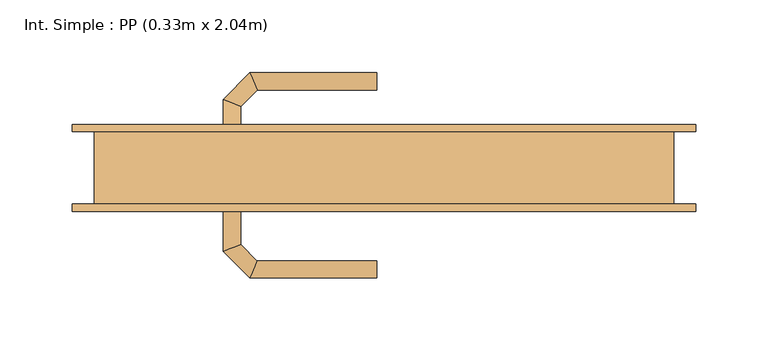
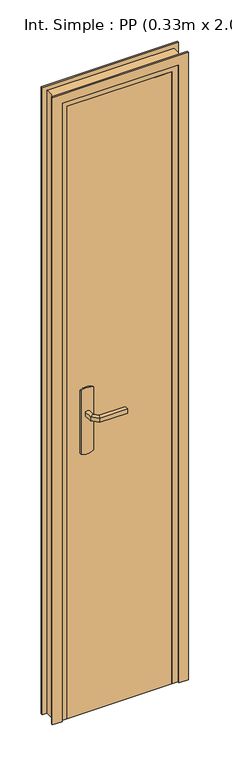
"""IFC4 building model written with IfcOpenShell, lengths in millimetres: door geometry, Int. Simple : PP (0.33m x 2.04m)."""

from ifc_helpers import new_model, si_unit, point, frame, frame_2d, origin, origin_with_axes, place, context, project, spatial, polyline, circle_curve, ellipse_curve, trimmed, segment, composite_curve, outline, extrude, faceted_brep, source, transform, mapped, element, save
from ifc_brep_helpers import plane_surface, cylinder_surface, advanced_brep


def int_simple_pp_0_33m_x_2_04m_4fbbb0b7(model_context):
    return source(origin(), model_context, "Body", "SolidModel", [
        extrude(outline(composite_curve([segment(trimmed(circle_curve(frame_2d((904.6410162, -140.0)), 40.0), [point((870.0, -160.0))], [point((870.0, -120.0))], False, "CARTESIAN"), True, "CONTINUOUS"), segment(polyline([(870.0, -120.0), (1080.0, -120.0)]), True, "CONTINUOUS"), segment(trimmed(circle_curve(frame_2d((1045.3589838, -140.0)), 40.0), [point((1080.0, -120.0))], [point((1080.0, -160.0))], False, "CARTESIAN"), True, "CONTINUOUS"), segment(polyline([(1080.0, -160.0), (870.0, -160.0)]), True, "CONTINUOUS")], self_intersect=False)), frame((0.0, -30.0, 0.0), z_axis=(0.0, 1.0, 0.0), x_axis=(0.0, 0.0, 1.0)), (0.0, 0.0, 1.0), 5.0),
        extrude(outline(composite_curve([segment(trimmed(circle_curve(frame_2d((1045.3589838, -140.0)), 40.0), [point((1080.0, -120.0))], [point((1080.0, -160.0))], False, "CARTESIAN"), True, "CONTINUOUS"), segment(polyline([(1080.0, -160.0), (870.0, -160.0)]), True, "CONTINUOUS"), segment(trimmed(circle_curve(frame_2d((904.6410162, -140.0)), 40.0), [point((870.0, -160.0))], [point((870.0, -120.0))], False, "CARTESIAN"), True, "CONTINUOUS"), segment(polyline([(870.0, -120.0), (1080.0, -120.0)]), True, "CONTINUOUS")], self_intersect=False)), frame((0.0, 15.0, 0.0), z_axis=(0.0, 1.0, 0.0), x_axis=(0.0, 0.0, 1.0)), (0.0, 0.0, 1.0), 5.0),
        advanced_brep(
        [(-146.0, -30.0, 1007.0), (-134.0, -30.0, 1007.0), (-134.0, -30.0, 993.0), (-146.0, -30.0, 993.0), (-146.0, -57.6509507, 1007.0), (-134.0, -52.680388, 1007.0), (-134.0, -52.680388, 993.0), (-146.0, -57.6509507, 993.0), (-127.62279, -76.0281607, 1007.0), (-122.6522273, -64.0281607, 1007.0), (-122.6522273, -64.0281607, 993.0), (-127.62279, -76.0281607, 993.0), (-39.9813594, -76.0281607, 1007.0), (-39.9813594, -76.0281607, 993.0), (-39.9813594, -64.0281607, 993.0), (-39.9813594, -64.0281607, 1007.0)],
        [
            (0, 1, circle_curve(frame((-140.0, -30.0, 986.9542278), z_axis=(0.0, 1.0, 0.0), x_axis=(1.0, 0.0, 0.0)), 20.9244589)),
            (1, 2),
            (2, 3, circle_curve(frame((-140.0, -30.0, 1013.0457722), z_axis=(0.0, 1.0, 0.0), x_axis=(1.0, 0.0, 0.0)), 20.9244589)),
            (3, 0),
            (0, 4),
            (4, 5, ellipse_curve(frame((-140.0, -55.1656693, 986.9542278), z_axis=(-0.3826834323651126, 0.9238795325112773, 0.0), x_axis=(0.9238795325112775, 0.38268343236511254, 0.0)), 22.6484711, 20.9244589)),
            (5, 1),
            (5, 6),
            (6, 2),
            (6, 7, ellipse_curve(frame((-140.0, -55.1656693, 1013.0457722), z_axis=(-0.3826834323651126, 0.9238795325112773, 0.0), x_axis=(0.9238795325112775, 0.38268343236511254, 0.0)), 22.6484711, 20.9244589)),
            (7, 3),
            (7, 4),
            (4, 8),
            (8, 9, ellipse_curve(frame((-125.1375086, -70.0281607, 986.9542278), z_axis=(-0.9238795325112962, 0.38268343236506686, 0.0), x_axis=(0.3826834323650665, 0.9238795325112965, 0.0)), 22.6484711, 20.9244589)),
            (9, 5),
            (9, 10),
            (10, 6),
            (10, 11, ellipse_curve(frame((-125.1375086, -70.0281607, 1013.0457722), z_axis=(-0.9238795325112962, 0.38268343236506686, 0.0), x_axis=(0.3826834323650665, 0.9238795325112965, 0.0)), 22.6484711, 20.9244589)),
            (11, 7),
            (11, 8),
            (12, 13),
            (13, 14, circle_curve(frame((-39.9813594, -70.0281607, 1013.0457722), z_axis=(1.0, 0.0, 0.0), x_axis=(0.0, 1.0, 0.0)), 20.9244589)),
            (14, 15),
            (15, 12, circle_curve(frame((-39.9813594, -70.0281607, 986.9542278), z_axis=(1.0, 0.0, 0.0), x_axis=(0.0, 1.0, 0.0)), 20.9244589)),
            (8, 12),
            (15, 9),
            (14, 10),
            (13, 11),
        ],
        [
            plane_surface(frame((-149.2195445, -30.0, 1000.0), z_axis=(0.0, 1.0, 0.0), x_axis=(0.0, 0.0, -1.0))),
            cylinder_surface(frame((-140.0, -30.0, 986.9542278), z_axis=(0.0, 1.0, 0.0), x_axis=(1.0, 0.0, 0.0)), 20.9244589),
            plane_surface(frame((-134.0, -30.0, 1007.0), z_axis=(1.0, 0.0, 0.0), x_axis=(0.0, -1.0, 0.0))),
            cylinder_surface(frame((-140.0, -30.0, 1013.0457722), z_axis=(0.0, 1.0, 0.0), x_axis=(1.0, 0.0, 0.0)), 20.9244589),
            plane_surface(frame((-146.0, -30.0, 993.0), z_axis=(-1.0, 0.0, 0.0), x_axis=(0.0, -1.0, 0.0))),
            cylinder_surface(frame((-140.0, -55.1656693, 986.9542278), z_axis=(-0.7071067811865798, 0.7071067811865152, 0.0), x_axis=(0.7071067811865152, 0.7071067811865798, 0.0)), 20.9244589),
            plane_surface(frame((-134.0, -52.680388, 1007.0), z_axis=(0.7071067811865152, 0.7071067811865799, 0.0), x_axis=(0.7071067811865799, -0.7071067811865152, 0.0))),
            cylinder_surface(frame((-140.0, -55.1656693, 1013.0457722), z_axis=(-0.7071067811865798, 0.7071067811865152, 0.0), x_axis=(0.7071067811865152, 0.7071067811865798, 0.0)), 20.9244589),
            plane_surface(frame((-146.0, -57.6509507, 993.0), z_axis=(-0.7071067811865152, -0.7071067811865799, 0.0), x_axis=(0.7071067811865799, -0.7071067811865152, 0.0))),
            plane_surface(frame((-39.9813594, -70.0281607, 990.7804555), z_axis=(1.0, 0.0, 0.0), x_axis=(0.0, 1.0, 0.0))),
            cylinder_surface(frame((-125.1375086, -70.0281607, 986.9542278), z_axis=(-1.0, 0.0, 0.0), x_axis=(0.0, 1.0, 0.0)), 20.9244589),
            plane_surface(frame((-122.6522273, -64.0281607, 1007.0), z_axis=(0.0, 1.0, 0.0), x_axis=(1.0, 0.0, 0.0))),
            cylinder_surface(frame((-125.1375086, -70.0281607, 1013.0457722), z_axis=(-1.0, 0.0, 0.0), x_axis=(0.0, 1.0, 0.0)), 20.9244589),
            plane_surface(frame((-127.62279, -76.0281607, 993.0), z_axis=(0.0, -1.0, 0.0), x_axis=(1.0, 0.0, 0.0))),
        ],
        [
            (0, [[1, 2, 3, 4]]),
            (1, [[-1, 5, 6, 7]]),
            (2, [[-2, -7, 8, 9]]),
            (3, [[-3, -9, 10, 11]]),
            (4, [[-4, -11, 12, -5]]),
            (5, [[-6, 13, 14, 15]]),
            (6, [[-8, -15, 16, 17]]),
            (7, [[-10, -17, 18, 19]]),
            (8, [[-12, -19, 20, -13]]),
            (9, [[21, 22, 23, 24]]),
            (10, [[-14, 25, -24, 26]]),
            (11, [[-16, -26, -23, 27]]),
            (12, [[-18, -27, -22, 28]]),
            (13, [[-20, -28, -21, -25]]),
        ],
    ),
        advanced_brep(
        [(-134.0, 20.0, 993.0), (-134.0, 20.0, 1007.0), (-146.0, 20.0, 1007.0), (-146.0, 20.0, 993.0), (-134.0, 42.4852045, 993.0), (-134.0, 42.4852045, 1007.0), (-146.0, 47.4557673, 1007.0), (-146.0, 47.4557673, 993.0), (-122.5147186, 53.9704859, 993.0), (-122.5147186, 53.9704859, 1007.0), (-127.4852814, 65.9704859, 1007.0), (-127.4852814, 65.9704859, 993.0), (-39.9542163, 53.9704859, 993.0), (-39.9542163, 65.9704859, 993.0), (-39.9542163, 65.9704859, 1007.0), (-39.9542163, 53.9704859, 1007.0)],
        [
            (0, 1),
            (1, 2, circle_curve(frame((-140.0, 20.0, 986.9542278), z_axis=(0.0, -1.0, 0.0), x_axis=(-1.0, 0.0, 0.0)), 20.9244589)),
            (2, 3),
            (3, 0, circle_curve(frame((-140.0, 20.0, 1013.0457722), z_axis=(0.0, -1.0, 0.0), x_axis=(-1.0, 0.0, 0.0)), 20.9244589)),
            (0, 4),
            (4, 5),
            (5, 1),
            (5, 6, ellipse_curve(frame((-140.0, 44.9704859, 986.9542278), z_axis=(-0.3826834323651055, -0.9238795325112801, 0.0), x_axis=(0.9238795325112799, -0.3826834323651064, 0.0)), 22.6484711, 20.9244589)),
            (6, 2),
            (6, 7),
            (7, 3),
            (7, 4, ellipse_curve(frame((-140.0, 44.9704859, 1013.0457722), z_axis=(-0.3826834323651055, -0.9238795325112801, 0.0), x_axis=(0.9238795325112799, -0.3826834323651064, 0.0)), 22.6484711, 20.9244589)),
            (4, 8),
            (8, 9),
            (9, 5),
            (9, 10, ellipse_curve(frame((-125.0, 59.9704859, 986.9542278), z_axis=(-0.9238795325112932, -0.382683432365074, 0.0), x_axis=(0.3826834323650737, -0.9238795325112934, 0.0)), 22.6484711, 20.9244589)),
            (10, 6),
            (10, 11),
            (11, 7),
            (11, 8, ellipse_curve(frame((-125.0, 59.9704859, 1013.0457722), z_axis=(-0.9238795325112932, -0.382683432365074, 0.0), x_axis=(0.3826834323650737, -0.9238795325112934, 0.0)), 22.6484711, 20.9244589)),
            (12, 13, circle_curve(frame((-39.9542163, 59.9704859, 1013.0457722), z_axis=(1.0, 0.0, 0.0), x_axis=(0.0, 1.0, 0.0)), 20.9244589)),
            (13, 14),
            (14, 15, circle_curve(frame((-39.9542163, 59.9704859, 986.9542278), z_axis=(1.0, 0.0, 0.0), x_axis=(0.0, 1.0, 0.0)), 20.9244589)),
            (15, 12),
            (8, 12),
            (15, 9),
            (14, 10),
            (13, 11),
        ],
        [
            plane_surface(frame((-149.2195445, 20.0, 1000.0), z_axis=(0.0, -1.0, 0.0), x_axis=(0.0, 0.0, 1.0))),
            plane_surface(frame((-134.0, 20.0, 993.0), z_axis=(1.0, 0.0, 0.0), x_axis=(0.0, 1.0, 0.0))),
            cylinder_surface(frame((-140.0, 20.0, 986.9542278), z_axis=(0.0, -1.0, 0.0), x_axis=(-1.0, 0.0, 0.0)), 20.9244589),
            plane_surface(frame((-146.0, 20.0, 1007.0), z_axis=(-1.0, 0.0, 0.0), x_axis=(0.0, 1.0, 0.0))),
            cylinder_surface(frame((-140.0, 20.0, 1013.0457722), z_axis=(0.0, -1.0, 0.0), x_axis=(-1.0, 0.0, 0.0)), 20.9244589),
            plane_surface(frame((-134.0, 42.4852045, 993.0), z_axis=(0.7071067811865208, -0.7071067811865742, 0.0), x_axis=(0.7071067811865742, 0.7071067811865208, 0.0))),
            cylinder_surface(frame((-140.0, 44.9704859, 986.9542278), z_axis=(-0.7071067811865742, -0.7071067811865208, 0.0), x_axis=(-0.7071067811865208, 0.7071067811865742, 0.0)), 20.9244589),
            plane_surface(frame((-146.0, 47.4557673, 1007.0), z_axis=(-0.7071067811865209, 0.7071067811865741, 0.0), x_axis=(0.7071067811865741, 0.7071067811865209, 0.0))),
            cylinder_surface(frame((-140.0, 44.9704859, 1013.0457722), z_axis=(-0.7071067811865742, -0.7071067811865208, 0.0), x_axis=(-0.7071067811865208, 0.7071067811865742, 0.0)), 20.9244589),
            plane_surface(frame((-39.9542163, 59.9704859, 990.7804555), z_axis=(1.0, 0.0, 0.0), x_axis=(0.0, 1.0, 0.0))),
            plane_surface(frame((-122.5147186, 53.9704859, 993.0), z_axis=(0.0, -1.0, 0.0), x_axis=(1.0, 0.0, 0.0))),
            cylinder_surface(frame((-125.0, 59.9704859, 986.9542278), z_axis=(-1.0, 0.0, 0.0), x_axis=(0.0, 1.0, 0.0)), 20.9244589),
            plane_surface(frame((-127.4852814, 65.9704859, 1007.0), z_axis=(0.0, 1.0, 0.0), x_axis=(1.0, 0.0, 0.0))),
            cylinder_surface(frame((-125.0, 59.9704859, 1013.0457722), z_axis=(-1.0, 0.0, 0.0), x_axis=(0.0, 1.0, 0.0)), 20.9244589),
        ],
        [
            (0, [[1, 2, 3, 4]]),
            (1, [[-1, 5, 6, 7]]),
            (2, [[-2, -7, 8, 9]]),
            (3, [[-3, -9, 10, 11]]),
            (4, [[-4, -11, 12, -5]]),
            (5, [[-6, 13, 14, 15]]),
            (6, [[-8, -15, 16, 17]]),
            (7, [[-10, -17, 18, 19]]),
            (8, [[-12, -19, 20, -13]]),
            (9, [[21, 22, 23, 24]]),
            (10, [[-14, 25, -24, 26]]),
            (11, [[-16, -26, -23, 27]]),
            (12, [[-18, -27, -22, 28]]),
            (13, [[-20, -28, -21, -25]]),
        ],
    ),
        extrude(outline(polyline([(-200.0, 15.0), (130.0, 15.0), (130.0, -25.0), (-200.0, -25.0), (-200.0, 15.0)])), origin_with_axes(), (0.0, 0.0, 1.0), 2040.0),
        faceted_brep([(-235.0, -25.0, 0.0), (-235.0, 25.0, 0.0), (-185.0, 25.0, 0.0), (-185.0, 15.0, 0.0), (-200.0, 15.0, 0.0), (-200.0, -25.0, 0.0), (-235.0, -25.0, 2075.0), (-235.0, 25.0, 2075.0), (165.0, 25.0, 2075.0), (165.0, 25.0, 0.0), (115.0, 25.0, 0.0), (115.0, 25.0, 2025.0), (-185.0, 25.0, 2025.0), (-185.0, 15.0, 2025.0), (115.0, 15.0, 2025.0), (115.0, 15.0, 0.0), (130.0, 15.0, 0.0), (130.0, 15.0, 2040.0), (-200.0, 15.0, 2040.0), (-200.0, -25.0, 2040.0), (130.0, -25.0, 2040.0), (130.0, -25.0, 0.0), (165.0, -25.0, 0.0), (165.0, -25.0, 2075.0)], [[[0, 1, 2, 3, 4, 5]], [[1, 0, 6, 7]], [[2, 1, 7, 8, 9, 10, 11, 12]], [[3, 2, 12, 13]], [[4, 3, 13, 14, 15, 16, 17, 18]], [[5, 4, 18, 19]], [[0, 5, 19, 20, 21, 22, 23, 6]], [[8, 23, 22, 9]], [[22, 21, 16, 15, 10, 9]], [[14, 11, 10, 15]], [[20, 17, 16, 21]], [[7, 6, 23, 8]], [[13, 12, 11, 14]], [[19, 18, 17, 20]]]),
        extrude(outline(polyline([(0.0, -250.0), (0.0, -220.0), (2060.0, -220.0), (2060.0, 150.0), (0.0, 150.0), (0.0, 180.0), (2090.0, 180.0), (2090.0, -250.0), (0.0, -250.0)])), frame((0.0, -30.0, 0.0), z_axis=(0.0, 1.0, 0.0), x_axis=(0.0, 0.0, 1.0)), (0.0, 0.0, 1.0), 5.0),
        extrude(outline(polyline([(0.0, -250.0), (0.0, -220.0), (2060.0, -220.0), (2060.0, 150.0), (0.0, 150.0), (0.0, 180.0), (2090.0, 180.0), (2090.0, -250.0), (0.0, -250.0)])), frame((0.0, 25.0, 0.0), z_axis=(0.0, 1.0, 0.0), x_axis=(0.0, 0.0, 1.0)), (0.0, 0.0, 1.0), 5.0),
    ])


if __name__ == "__main__":
    model = new_model("IFC4")
    model_context = context("Model", 3, world=origin())
    ifc_project = project(units=[si_unit("LENGTHUNIT", "METRE", prefix="MILLI")], contexts=[model_context])
    site = spatial("IfcSite", under=ifc_project)
    building = spatial("IfcBuilding", under=site)
    placement = place(None, origin())
    int_simple_pp_0_33m_x_2_04m_shape = int_simple_pp_0_33m_x_2_04m_4fbbb0b7(model_context)
    element("IfcDoor", 1, ObjectType="Int. Simple : PP (0.33m x 2.04m)", at=placement, inside=building, context=model_context, shape_type="MappedRepresentation", body=[
        mapped(int_simple_pp_0_33m_x_2_04m_shape, transform((0.0, 0.0, 0.0), x_axis=(1.0, 0.0, 0.0), y_axis=(0.0, 1.0, 0.0), z_axis=(0.0, 0.0, 1.0))),
    ])
    save(model, "model.ifc")
